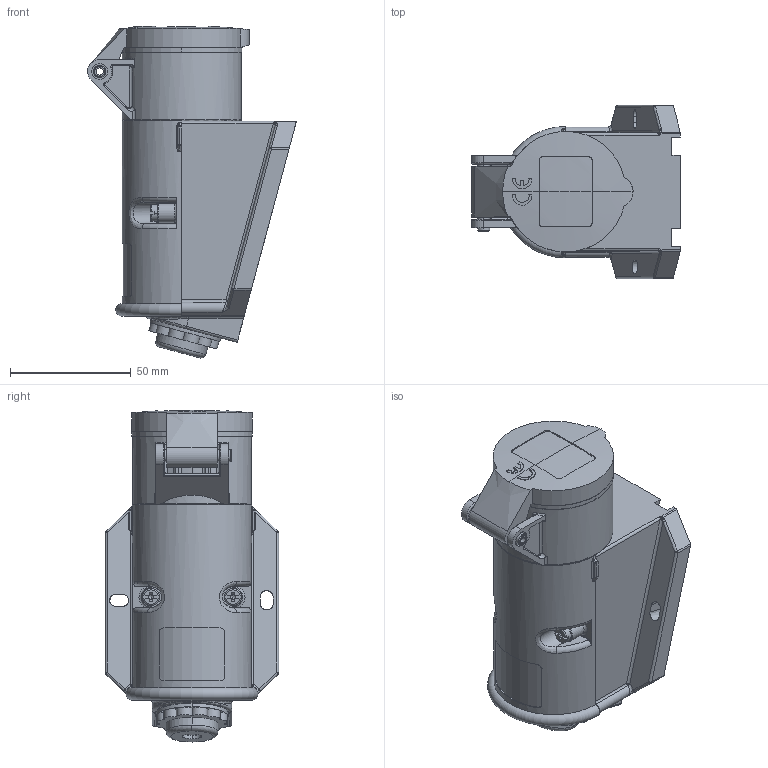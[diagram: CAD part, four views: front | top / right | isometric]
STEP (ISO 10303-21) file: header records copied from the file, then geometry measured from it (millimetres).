
FILE_DESCRIPTION((''),'2;1');
FILE_NAME('1116590_ASM_SW0001','2018-04-17T',('gisse'),('MENNEKES'),'PRO/ENGINEER BY PARAMETRIC TECHNOLOGY CORPORATION, 2015440','PRO/ENGINEER BY PARAMETRIC TECHNOLOGY CORPORATION, 2015440','');
FILE_SCHEMA(('AUTOMOTIVE_DESIGN { 1 0 10303 214 1 1 1 1 }'));
Length unit declared in the file: millimetre
Products named in the file (1): 1116590_ASM_SW0001
Bounding box: 86.61 x 72 x 137.75 mm (x, y, z)
Volume: 269518.2 mm3; surface area: 44319.6 mm2
Topology: 1 solids, 1 shells, 473 faces, 1218 edges, 756 vertices
Faces by surface type: cylinder 145, plane 138, bspline 115, torus 44, cone 17, sphere 14
Entity records: 29358 total; most frequent: CARTESIAN_POINT 9020, ORIENTED_EDGE 2424, DIRECTION 2029, PRESENTATION_STYLE_ASSIGNMENT 1678, STYLED_ITEM 1213, CURVE_STYLE 1212, EDGE_CURVE 1212, FILL_AREA_STYLE_COLOUR 931
